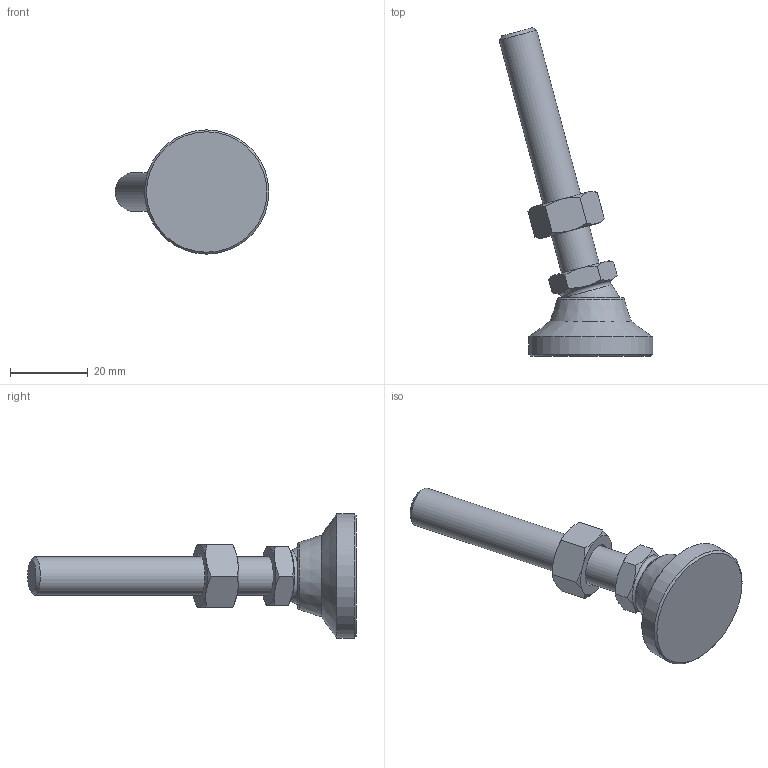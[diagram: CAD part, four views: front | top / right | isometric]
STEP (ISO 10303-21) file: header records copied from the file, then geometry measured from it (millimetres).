
FILE_DESCRIPTION( ( 'STEP AP214' ), ' ' );
FILE_NAME( 'O:/ganter_2015/teil_2/2_5/gn343_2/gn343_2_os/Levelling foot with threaded stud GN 343.2-32-M10-63-OS-(15).stp', '2015-10-26T09:07:04', ( '' ), ( '' ), ' ', 'PARTsolutions', ' ' );
FILE_SCHEMA( ( 'AUTOMOTIVE_DESIGN { 1 0 10303 214 1 1 1 1 }' ) );
Length unit declared in the file: millimetre
Products named in the file (4): Levelling foot with threaded stud GN 343.2-32-M10-63-OS-(15); _Levelling foot with threaded stud GN 343.2-32-M10-63-OS-(15)_foot; _Levelling foot with threaded stud GN 343.2-32-M10-63-OS-(15)_screw; _Stainless Steel-Levelling feet GN 343.2-32-M10-63-OS-(15)_nut
Assembly tree (3 placements, depth 2):
  Levelling foot with threaded stud GN 343.2-32-M10-63-OS-(15)
    _Levelling foot with threaded stud GN 343.2-32-M10-63-OS-(15)_foot
    _Levelling foot with threaded stud GN 343.2-32-M10-63-OS-(15)_screw
    _Stainless Steel-Levelling feet GN 343.2-32-M10-63-OS-(15)_nut
Bounding box: 39.56 x 84.57 x 32 mm (x, y, z)
Volume: 15667.8 mm3; surface area: 6802.5 mm2
Topology: 3 solids, 3 shells, 50 faces, 107 edges, 63 vertices
Faces by surface type: cone 25, plane 18, cylinder 3, torus 2, sphere 2
Full cylindrical faces by diameter (mm): 8.376 x1, 10 x1, 32 x1
Entity records: 1874 total; most frequent: CARTESIAN_POINT 468, DIRECTION 188, ORIENTED_EDGE 176, AXIS2_PLACEMENT_3D 88, EDGE_CURVE 88, EDGE_LOOP 66, VERTEX_POINT 60, FACE_OUTER_BOUND 55
